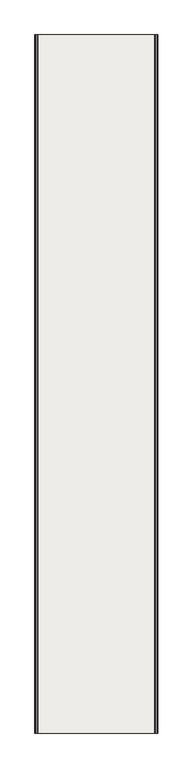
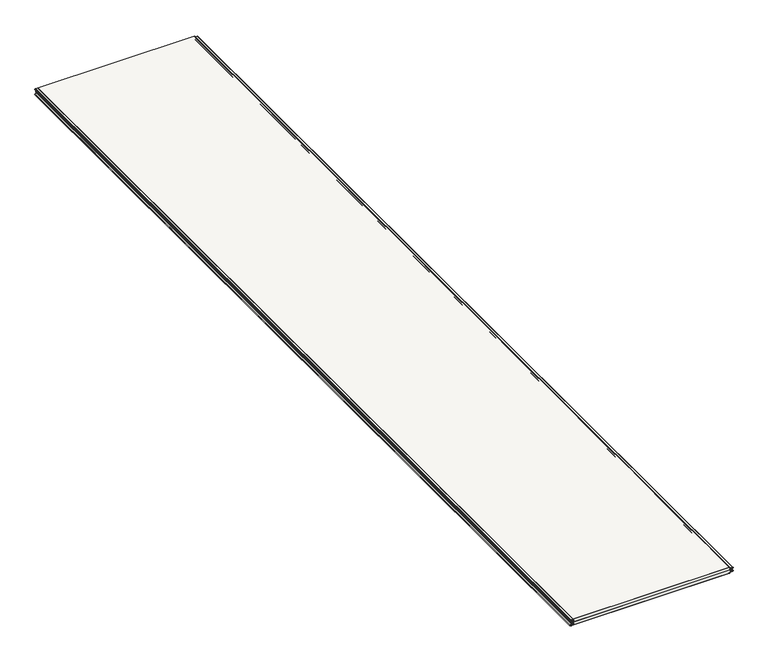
"""IFC4 building model written with IfcOpenShell, lengths in millimetres: covering geometry, Płyta warstwowa ścienna SPW-S CORE PIR (pojedynczy arkusz) : -."""

from ifc_helpers import new_model, si_unit, point, frame, frame_2d, origin, place, context, project, spatial, polyline, circle_curve, trimmed, segment, composite_curve, outline, extrude, source, transform, mapped, element, save
from ifc_brep_helpers import plane_surface, cylinder_surface, revolved_surface, advanced_brep


def covering_261e3902(model_context):
    return source(origin(), model_context, "Body", "SolidModel", [
        extrude(outline(composite_curve([segment(trimmed(circle_curve(frame_2d((-37.0000044, -1037.1173522)), 1.9999956), [point((-39.0, -1037.1173522))], [point((-35.0012272, -1037.1871545))], True, "CARTESIAN"), True, "CONTINUOUS"), segment(polyline([(-35.0012272, -1037.1871545), (-34.4480424, -1021.346807)]), True, "CONTINUOUS"), segment(trimmed(circle_curve(frame_2d((-29.950784, -1021.5038626)), 4.5), [point((-34.4480424, -1021.346807))], [point((-25.4569506, -1021.2683586))], False, "CARTESIAN"), True, "CONTINUOUS"), segment(polyline([(-25.4569506, -1021.2683586), (-24.890434, -1032.0785013)]), True, "CONTINUOUS"), segment(trimmed(circle_curve(frame_2d((-23.3924895, -1032.0)), 1.5), [point((-24.890434, -1032.0785013))], [point((-23.3924895, -1033.5))], True, "CARTESIAN"), True, "CONTINUOUS"), segment(polyline([(-23.3924895, -1033.5), (-20.8924895, -1033.5), (-20.8924895, -1034.5), (-23.3924895, -1034.5)]), True, "CONTINUOUS"), segment(trimmed(circle_curve(frame_2d((-23.3924895, -1032.0)), 2.5), [point((-23.3924895, -1034.5))], [point((-25.8890636, -1032.1308355))], False, "CARTESIAN"), True, "CONTINUOUS"), segment(polyline([(-25.8890636, -1032.1308355), (-26.4555803, -1021.3206928)]), True, "CONTINUOUS"), segment(trimmed(circle_curve(frame_2d((-29.950784, -1021.5038626)), 3.5), [point((-26.4555803, -1021.3206928))], [point((-33.4486516, -1021.3817082))], True, "CARTESIAN"), True, "CONTINUOUS"), segment(polyline([(-33.4486516, -1021.3817082), (-34.0018364, -1037.2220557)]), True, "CONTINUOUS"), segment(trimmed(circle_curve(frame_2d((-37.0000044, -1037.1173522)), 2.9999956), [point((-34.0018364, -1037.2220557))], [point((-40.0, -1037.1173522))], False, "CARTESIAN"), True, "CONTINUOUS"), segment(polyline([(-40.0, -1037.1173522), (-40.0, -1035.0), (-39.0, -1035.0), (-39.0, -1037.1173522)]), True, "CONTINUOUS")], self_intersect=False)), frame((0.0, -5800.0, 0.0), z_axis=(0.0, 1.0, 0.0), x_axis=(0.0, 0.0, 1.0)), (0.0, 0.0, 1.0), 5800.0),
        extrude(outline(composite_curve([segment(polyline([(-1.0, -1037.1173522), (-1.0, -1035.0), (0.0, -1035.0), (0.0, -1037.1173522)]), True, "CONTINUOUS"), segment(trimmed(circle_curve(frame_2d((-2.9999956, -1037.1173522)), 2.9999956), [point((0.0, -1037.1173522))], [point((-5.9981636, -1037.2220557))], False, "CARTESIAN"), True, "CONTINUOUS"), segment(polyline([(-5.9981636, -1037.2220557), (-6.5513484, -1021.3817082)]), True, "CONTINUOUS"), segment(trimmed(circle_curve(frame_2d((-10.049216, -1021.5038626)), 3.5), [point((-6.5513484, -1021.3817082))], [point((-13.5444197, -1021.3206928))], True, "CARTESIAN"), True, "CONTINUOUS"), segment(polyline([(-13.5444197, -1021.3206928), (-14.1109364, -1032.1308355)]), True, "CONTINUOUS"), segment(trimmed(circle_curve(frame_2d((-16.6075105, -1032.0)), 2.5), [point((-14.1109364, -1032.1308355))], [point((-16.6075105, -1034.5))], False, "CARTESIAN"), True, "CONTINUOUS"), segment(polyline([(-16.6075105, -1034.5), (-19.1075105, -1034.5), (-19.1075105, -1033.5), (-16.6075105, -1033.5)]), True, "CONTINUOUS"), segment(trimmed(circle_curve(frame_2d((-16.6075105, -1032.0)), 1.5), [point((-16.6075105, -1033.5))], [point((-15.109566, -1032.0785013))], True, "CARTESIAN"), True, "CONTINUOUS"), segment(polyline([(-15.109566, -1032.0785013), (-14.5430494, -1021.2683586)]), True, "CONTINUOUS"), segment(trimmed(circle_curve(frame_2d((-10.049216, -1021.5038626)), 4.5), [point((-14.5430494, -1021.2683586))], [point((-5.5519576, -1021.346807))], False, "CARTESIAN"), True, "CONTINUOUS"), segment(polyline([(-5.5519576, -1021.346807), (-4.9987728, -1037.1871545)]), True, "CONTINUOUS"), segment(trimmed(circle_curve(frame_2d((-2.9999956, -1037.1173522)), 1.9999956), [point((-4.9987728, -1037.1871545))], [point((-1.0, -1037.1173522))], True, "CARTESIAN"), True, "CONTINUOUS")], self_intersect=False)), frame((0.0, -5800.0, 0.0), z_axis=(0.0, 1.0, 0.0), x_axis=(0.0, 0.0, 1.0)), (0.0, 0.0, 1.0), 5800.0),
        advanced_brep(
        [(-1035.0, 0.0, -1.0), (-1035.0, 0.0, 0.0), (-43.1186621, 0.0, 0.0), (-40.1186621, 0.0, -3.0), (-40.1186621, 0.0, -5.07), (-39.1535616, 0.0, -6.0693908), (-22.7218558, 0.0, -6.6431986), (-22.6835162, 0.0, -13.4752455), (-33.6046719, 0.0, -14.0489713), (-35.5, 0.0, -16.0462304), (-35.5, 0.0, -18.5462304), (-36.5, 0.0, -18.5462304), (-36.5, 0.0, -16.0462304), (-33.6570079, 0.0, -13.0503418), (-22.43132, 0.0, -12.4620284), (-22.5993141, 0.0, -7.6513085), (-39.1884611, 0.0, -7.0687817), (-41.1186621, 0.0, -5.07), (-41.1186621, 0.0, -3.0), (-43.1186621, 0.0, -1.0), (-1035.0, -5800.0, -1.0), (-43.1186621, -5800.0, -1.0), (-41.1186621, -5800.0, -3.0), (-41.1186621, -5800.0, -5.07), (-39.1884611, -5800.0, -7.0687817), (-22.5992017, -5800.0, -7.6480914), (-22.43132, -5800.0, -12.4620284), (-33.6570079, -5800.0, -13.0503418), (-36.5, -5800.0, -16.0462304), (-36.5, -5800.0, -18.5462304), (-35.5, -5800.0, -18.5462304), (-35.5, -5800.0, -16.0462304), (-33.6046719, -5800.0, -14.0489713), (-22.6071775, -5800.0, -13.4726171), (-22.6835162, -5800.0, -6.6498388), (-39.1535616, -5800.0, -6.0693908), (-40.1186621, -5800.0, -5.07), (-40.1186621, -5800.0, -3.0), (-43.1186621, -5800.0, 0.0), (-1035.0, -5800.0, 0.0)],
        [
            (0, 1),
            (1, 2),
            (2, 3, circle_curve(frame((-43.1186621, 0.0, -3.0), z_axis=(0.0, 1.0, 0.0), x_axis=(1.0, 0.0, 0.0)), 3.0)),
            (3, 4),
            (4, 5, circle_curve(frame((-39.1186621, 0.0, -5.07), z_axis=(0.0, -1.0, 0.0), x_axis=(1.0, 0.0, 0.0)), 1.0)),
            (5, 6),
            (6, 7, circle_curve(frame((-22.6835162, 0.0, -10.0625421), z_axis=(0.0, 1.0, 0.0), x_axis=(1.0, 0.0, 0.0)), 3.4127033)),
            (7, 8),
            (8, 9, circle_curve(frame((-33.5, 0.0, -16.0462304), z_axis=(0.0, -1.0, 0.0), x_axis=(1.0, 0.0, 0.0)), 2.0)),
            (9, 10),
            (10, 11),
            (11, 12),
            (12, 13, circle_curve(frame((-33.5, 0.0, -16.0462304), z_axis=(0.0, 1.0, 0.0), x_axis=(1.0, 0.0, 0.0)), 3.0)),
            (13, 14),
            (14, 15, circle_curve(frame((-22.6835162, 0.0, -10.0625421), z_axis=(0.0, -1.0, 0.0), x_axis=(1.0, 0.0, 0.0)), 2.4127033)),
            (15, 16),
            (16, 17, circle_curve(frame((-39.1186621, 0.0, -5.07), z_axis=(0.0, 1.0, 0.0), x_axis=(1.0, 0.0, 0.0)), 2.0)),
            (17, 18),
            (18, 19, circle_curve(frame((-43.1186621, 0.0, -3.0), z_axis=(0.0, -1.0, 0.0), x_axis=(1.0, 0.0, 0.0)), 2.0)),
            (19, 0),
            (20, 21),
            (21, 22, circle_curve(frame((-43.1186621, -5800.0, -3.0), z_axis=(0.0, 1.0, 0.0), x_axis=(1.0, 0.0, 0.0)), 2.0)),
            (22, 23),
            (23, 24, circle_curve(frame((-39.1186621, -5800.0, -5.07), z_axis=(0.0, -1.0, 0.0), x_axis=(1.0, 0.0, 0.0)), 2.0)),
            (24, 25),
            (25, 26, circle_curve(frame((-22.6835162, -5800.0, -10.0625421), z_axis=(0.0, 1.0, 0.0), x_axis=(1.0, 0.0, 0.0)), 2.4127033)),
            (26, 27),
            (27, 28, circle_curve(frame((-33.5, -5800.0, -16.0462304), z_axis=(0.0, -1.0, 0.0), x_axis=(1.0, 0.0, 0.0)), 3.0)),
            (28, 29),
            (29, 30),
            (30, 31),
            (31, 32, circle_curve(frame((-33.5, -5800.0, -16.0462304), z_axis=(0.0, 1.0, 0.0), x_axis=(1.0, 0.0, 0.0)), 2.0)),
            (32, 33),
            (33, 34, circle_curve(frame((-22.6835162, -5800.0, -10.0625421), z_axis=(0.0, -1.0, 0.0), x_axis=(1.0, 0.0, 0.0)), 3.4127033)),
            (34, 35),
            (35, 36, circle_curve(frame((-39.1186621, -5800.0, -5.07), z_axis=(0.0, 1.0, 0.0), x_axis=(1.0, 0.0, 0.0)), 1.0)),
            (36, 37),
            (37, 38, circle_curve(frame((-43.1186621, -5800.0, -3.0), z_axis=(0.0, -1.0, 0.0), x_axis=(1.0, 0.0, 0.0)), 3.0)),
            (38, 39),
            (39, 20),
            (19, 21),
            (20, 0),
            (1, 39),
            (38, 2),
            (16, 24),
            (23, 17),
            (22, 18),
            (15, 25),
            (13, 27),
            (26, 14),
            (10, 30),
            (29, 11),
            (12, 28),
            (4, 36),
            (35, 5),
            (9, 31),
            (8, 32),
            (7, 33),
            (6, 34),
            (37, 3),
        ],
        [
            plane_surface(frame((-35.0, 0.0, -1.0), z_axis=(0.0, 1.0, 0.0), x_axis=(1.0, 0.0, 0.0))),
            plane_surface(frame((-35.0, -5800.0, -1.0), z_axis=(0.0, -1.0, 0.0), x_axis=(1.0, 0.0, 0.0))),
            plane_surface(frame((-43.1186621, 0.0, -1.0), z_axis=(0.0, 0.0, -1.0), x_axis=(0.0, -1.0, 0.0))),
            plane_surface(frame((-1035.0, 0.0, 0.0), z_axis=(0.0, 0.0, 1.0), x_axis=(0.0, -1.0, 0.0))),
            cylinder_surface(frame((-39.1186621, 0.0, -5.07), z_axis=(0.0, 1.0, 0.0), x_axis=(1.0, 0.0, 0.0)), 2.0),
            plane_surface(frame((-41.1186621, 0.0, -5.07), z_axis=(-1.0, 0.0, 0.0), x_axis=(0.0, -1.0, 0.0))),
            revolved_surface(polyline([(-41.1186621, -5800.0, -3.0), (-41.1186621, 0.0, -3.0)]), (-43.1186621, 0.0, -3.0), (0.0, -1.0, 0.0)),
            plane_surface(frame((-22.5992017, 0.0, -7.6480914), z_axis=(-0.034899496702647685, 0.0, -0.9993908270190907), x_axis=(0.0, -1.0, 0.0))),
            plane_surface(frame((-33.6570079, 0.0, -13.0503418), z_axis=(-0.05233595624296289, 0.0, 0.998629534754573), x_axis=(0.0, -1.0, 0.0))),
            plane_surface(frame((-35.5, 0.0, -18.5462304), z_axis=(0.0, 0.0, -1.0), x_axis=(0.0, -1.0, 0.0))),
            cylinder_surface(frame((-33.5, 0.0, -16.0462304), z_axis=(0.0, 1.0, 0.0), x_axis=(1.0, 0.0, 0.0)), 3.0),
            plane_surface(frame((-36.5, 0.0, -18.5462304), z_axis=(-1.0, 0.0, 0.0), x_axis=(0.0, -1.0, 0.0))),
            revolved_surface(polyline([(-38.1186621, -5800.0, -5.07), (-38.1186621, 0.0, -5.07)]), (-39.1186621, 0.0, -5.07), (0.0, -1.0, 0.0)),
            plane_surface(frame((-35.5, 0.0, -16.0462304), z_axis=(1.0, 0.0, 0.0), x_axis=(0.0, -1.0, 0.0))),
            revolved_surface(polyline([(-31.5, -5800.0, -16.0462304), (-31.5, 0.0, -16.0462304)]), (-33.5, 0.0, -16.0462304), (0.0, -1.0, 0.0)),
            plane_surface(frame((-22.6071775, 0.0, -13.4726171), z_axis=(0.052335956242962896, 0.0, -0.998629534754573), x_axis=(0.0, -1.0, 0.0))),
            revolved_surface(polyline([(-20.2708129, -5800.0, -10.0625421), (-20.2708129, 0.0, -10.0625421)]), (-22.6835162, 0.0, -10.0625421), (0.0, -1.0, 0.0)),
            cylinder_surface(frame((-22.6835162, 0.0, -10.0625421), z_axis=(0.0, 1.0, 0.0), x_axis=(1.0, 0.0, 0.0)), 3.4127033),
            plane_surface(frame((-1035.0, 0.0, -1.0), z_axis=(-1.0, 0.0, 0.0), x_axis=(0.0, -1.0, 0.0))),
            cylinder_surface(frame((-43.1186621, 0.0, -3.0), z_axis=(0.0, 1.0, 0.0), x_axis=(1.0, 0.0, 0.0)), 3.0),
            plane_surface(frame((-40.1186621, 0.0, -3.0), z_axis=(1.0, 0.0, 0.0), x_axis=(0.0, -1.0, 0.0))),
            plane_surface(frame((-39.1535616, 0.0, -6.0693908), z_axis=(0.03489949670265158, 0.0, 0.9993908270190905), x_axis=(0.0, -1.0, 0.0))),
        ],
        [
            (0, [[1, 2, 3, 4, 5, 6, 7, 8, 9, 10, 11, 12, 13, 14, 15, 16, 17, 18, 19, 20]]),
            (1, [[21, 22, 23, 24, 25, 26, 27, 28, 29, 30, 31, 32, 33, 34, 35, 36, 37, 38, 39, 40]]),
            (2, [[-20, 41, -21, 42]]),
            (3, [[-2, 43, -39, 44]]),
            (4, [[-17, 45, -24, 46]]),
            (5, [[-18, -46, -23, 47]]),
            (6, [[-19, -47, -22, -41]]),
            (7, [[-16, 48, -25, -45]]),
            (8, [[-14, 49, -27, 50]]),
            (9, [[-11, 51, -30, 52]]),
            (10, [[-13, 53, -28, -49]]),
            (11, [[-12, -52, -29, -53]]),
            (12, [[-5, 54, -36, 55]]),
            (13, [[-10, 56, -31, -51]]),
            (14, [[-9, 57, -32, -56]]),
            (15, [[-8, 58, -33, -57]]),
            (16, [[-15, -50, -26, -48]]),
            (17, [[-7, 59, -34, -58]]),
            (18, [[-1, -42, -40, -43]]),
            (19, [[-3, -44, -38, 60]]),
            (20, [[-4, -60, -37, -54]]),
            (21, [[-6, -55, -35, -59]]),
        ],
    ),
        advanced_brep(
        [(-1035.0, 0.0, -39.0), (-43.1186621, 0.0, -39.0), (-41.1186621, 0.0, -37.0), (-41.1186621, 0.0, -34.93), (-39.1884611, 0.0, -32.9312183), (-22.5992017, 0.0, -32.3519086), (-22.43132, 0.0, -27.5379716), (-33.6570079, 0.0, -26.9496582), (-36.5, 0.0, -23.9537696), (-36.5, 0.0, -21.4537696), (-35.5, 0.0, -21.4537696), (-35.5, 0.0, -23.9537696), (-33.6046719, 0.0, -25.9510287), (-22.6071775, 0.0, -26.5273829), (-22.6835162, 0.0, -33.3501612), (-39.1535616, 0.0, -33.9306092), (-40.1186621, 0.0, -34.93), (-40.1186621, 0.0, -37.0), (-43.1186621, 0.0, -40.0), (-1035.0, 0.0, -40.0), (-1035.0, -5800.0, -39.0), (-1035.0, -5800.0, -40.0), (-43.1186621, -5800.0, -40.0), (-40.1186621, -5800.0, -37.0), (-40.1186621, -5800.0, -34.93), (-39.1535616, -5800.0, -33.9306092), (-22.7218558, -5800.0, -33.3568014), (-22.6835162, -5800.0, -26.5247545), (-33.6046719, -5800.0, -25.9510287), (-35.5, -5800.0, -23.9537696), (-35.5, -5800.0, -21.4537696), (-36.5, -5800.0, -21.4537696), (-36.5, -5800.0, -23.9537696), (-33.6570079, -5800.0, -26.9496582), (-22.43132, -5800.0, -27.5379716), (-22.5993141, -5800.0, -32.3486915), (-39.1884611, -5800.0, -32.9312183), (-41.1186621, -5800.0, -34.93), (-41.1186621, -5800.0, -37.0), (-43.1186621, -5800.0, -39.0)],
        [
            (0, 1),
            (1, 2, circle_curve(frame((-43.1186621, 0.0, -37.0), z_axis=(0.0, -1.0, 0.0), x_axis=(1.0, 0.0, 0.0)), 2.0)),
            (2, 3),
            (3, 4, circle_curve(frame((-39.1186621, 0.0, -34.93), z_axis=(0.0, 1.0, 0.0), x_axis=(1.0, 0.0, 0.0)), 2.0)),
            (4, 5),
            (5, 6, circle_curve(frame((-22.6835162, 0.0, -29.9374579), z_axis=(0.0, -1.0, 0.0), x_axis=(1.0, 0.0, 0.0)), 2.4127033)),
            (6, 7),
            (7, 8, circle_curve(frame((-33.5, 0.0, -23.9537696), z_axis=(0.0, 1.0, 0.0), x_axis=(1.0, 0.0, 0.0)), 3.0)),
            (8, 9),
            (9, 10),
            (10, 11),
            (11, 12, circle_curve(frame((-33.5, 0.0, -23.9537696), z_axis=(0.0, -1.0, 0.0), x_axis=(1.0, 0.0, 0.0)), 2.0)),
            (12, 13),
            (13, 14, circle_curve(frame((-22.6835162, 0.0, -29.9374579), z_axis=(0.0, 1.0, 0.0), x_axis=(1.0, 0.0, 0.0)), 3.4127033)),
            (14, 15),
            (15, 16, circle_curve(frame((-39.1186621, 0.0, -34.93), z_axis=(0.0, -1.0, 0.0), x_axis=(1.0, 0.0, 0.0)), 1.0)),
            (16, 17),
            (17, 18, circle_curve(frame((-43.1186621, 0.0, -37.0), z_axis=(0.0, 1.0, 0.0), x_axis=(1.0, 0.0, 0.0)), 3.0)),
            (18, 19),
            (19, 0),
            (20, 21),
            (21, 22),
            (22, 23, circle_curve(frame((-43.1186621, -5800.0, -37.0), z_axis=(0.0, -1.0, 0.0), x_axis=(1.0, 0.0, 0.0)), 3.0)),
            (23, 24),
            (24, 25, circle_curve(frame((-39.1186621, -5800.0, -34.93), z_axis=(0.0, 1.0, 0.0), x_axis=(1.0, 0.0, 0.0)), 1.0)),
            (25, 26),
            (26, 27, circle_curve(frame((-22.6835162, -5800.0, -29.9374579), z_axis=(0.0, -1.0, 0.0), x_axis=(1.0, 0.0, 0.0)), 3.4127033)),
            (27, 28),
            (28, 29, circle_curve(frame((-33.5, -5800.0, -23.9537696), z_axis=(0.0, 1.0, 0.0), x_axis=(1.0, 0.0, 0.0)), 2.0)),
            (29, 30),
            (30, 31),
            (31, 32),
            (32, 33, circle_curve(frame((-33.5, -5800.0, -23.9537696), z_axis=(0.0, -1.0, 0.0), x_axis=(1.0, 0.0, 0.0)), 3.0)),
            (33, 34),
            (34, 35, circle_curve(frame((-22.6835162, -5800.0, -29.9374579), z_axis=(0.0, 1.0, 0.0), x_axis=(1.0, 0.0, 0.0)), 2.4127033)),
            (35, 36),
            (36, 37, circle_curve(frame((-39.1186621, -5800.0, -34.93), z_axis=(0.0, -1.0, 0.0), x_axis=(1.0, 0.0, 0.0)), 2.0)),
            (37, 38),
            (38, 39, circle_curve(frame((-43.1186621, -5800.0, -37.0), z_axis=(0.0, 1.0, 0.0), x_axis=(1.0, 0.0, 0.0)), 2.0)),
            (39, 20),
            (0, 20),
            (39, 1),
            (18, 22),
            (21, 19),
            (3, 37),
            (36, 4),
            (2, 38),
            (35, 5),
            (6, 34),
            (33, 7),
            (9, 31),
            (30, 10),
            (32, 8),
            (15, 25),
            (24, 16),
            (29, 11),
            (28, 12),
            (27, 13),
            (26, 14),
            (23, 17),
        ],
        [
            plane_surface(frame((-30.0, 0.0, -40.0), z_axis=(0.0, 1.0, 0.0), x_axis=(-1.0, 0.0, 0.0))),
            plane_surface(frame((-30.0, -5800.0, -40.0), z_axis=(0.0, -1.0, 0.0), x_axis=(-1.0, 0.0, 0.0))),
            plane_surface(frame((-1035.0, 0.0, -39.0), z_axis=(0.0, 0.0, 1.0), x_axis=(0.0, -1.0, 0.0))),
            plane_surface(frame((-43.1186621, 0.0, -40.0), z_axis=(0.0, 0.0, -1.0), x_axis=(0.0, -1.0, 0.0))),
            cylinder_surface(frame((-39.1186621, 0.0, -34.93), z_axis=(0.0, 1.0, 0.0), x_axis=(1.0, 0.0, 0.0)), 2.0),
            plane_surface(frame((-41.1186621, 0.0, -37.0), z_axis=(-1.0, 0.0, 0.0), x_axis=(0.0, -1.0, 0.0))),
            revolved_surface(polyline([(-41.1186621, -5800.0, -37.0), (-41.1186621, 0.0, -37.0)]), (-43.1186621, 0.0, -37.0), (0.0, -1.0, 0.0)),
            plane_surface(frame((-39.1884611, 0.0, -32.9312183), z_axis=(-0.034899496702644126, 0.0, 0.9993908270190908), x_axis=(0.0, -1.0, 0.0))),
            plane_surface(frame((-22.43132, 0.0, -27.5379716), z_axis=(-0.05233595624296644, 0.0, -0.9986295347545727), x_axis=(0.0, -1.0, 0.0))),
            plane_surface(frame((-36.5, 0.0, -21.4537696), z_axis=(0.0, 0.0, 1.0), x_axis=(0.0, -1.0, 0.0))),
            cylinder_surface(frame((-33.5, 0.0, -23.9537696), z_axis=(0.0, 1.0, 0.0), x_axis=(1.0, 0.0, 0.0)), 3.0),
            plane_surface(frame((-36.5, 0.0, -23.9537696), z_axis=(-1.0, 0.0, 0.0), x_axis=(0.0, -1.0, 0.0))),
            revolved_surface(polyline([(-38.1186621, -5800.0, -34.93), (-38.1186621, 0.0, -34.93)]), (-39.1186621, 0.0, -34.93), (0.0, -1.0, 0.0)),
            plane_surface(frame((-35.5, 0.0, -21.4537696), z_axis=(1.0, 0.0, 0.0), x_axis=(0.0, -1.0, 0.0))),
            revolved_surface(polyline([(-31.5, -5800.0, -23.9537696), (-31.5, 0.0, -23.9537696)]), (-33.5, 0.0, -23.9537696), (0.0, -1.0, 0.0)),
            plane_surface(frame((-33.6046719, 0.0, -25.9510287), z_axis=(0.05233595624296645, 0.0, 0.9986295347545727), x_axis=(0.0, -1.0, 0.0))),
            revolved_surface(polyline([(-20.2708129, -5800.0, -29.9374579), (-20.2708129, 0.0, -29.9374579)]), (-22.6835162, 0.0, -29.9374579), (0.0, -1.0, 0.0)),
            cylinder_surface(frame((-22.6835162, 0.0, -29.9374579), z_axis=(0.0, 1.0, 0.0), x_axis=(1.0, 0.0, 0.0)), 3.4127033),
            plane_surface(frame((-1035.0, 0.0, -40.0), z_axis=(-1.0, 0.0, 0.0), x_axis=(0.0, -1.0, 0.0))),
            plane_surface(frame((-22.7218558, 0.0, -33.3568014), z_axis=(0.03489949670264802, 0.0, -0.9993908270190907), x_axis=(0.0, -1.0, 0.0))),
            plane_surface(frame((-40.1186621, 0.0, -34.93), z_axis=(1.0, 0.0, 0.0), x_axis=(0.0, -1.0, 0.0))),
            cylinder_surface(frame((-43.1186621, 0.0, -37.0), z_axis=(0.0, 1.0, 0.0), x_axis=(1.0, 0.0, 0.0)), 3.0),
        ],
        [
            (0, [[1, 2, 3, 4, 5, 6, 7, 8, 9, 10, 11, 12, 13, 14, 15, 16, 17, 18, 19, 20]]),
            (1, [[21, 22, 23, 24, 25, 26, 27, 28, 29, 30, 31, 32, 33, 34, 35, 36, 37, 38, 39, 40]]),
            (2, [[-1, 41, -40, 42]]),
            (3, [[-19, 43, -22, 44]]),
            (4, [[-4, 45, -37, 46]]),
            (5, [[-3, 47, -38, -45]]),
            (6, [[-2, -42, -39, -47]]),
            (7, [[-5, -46, -36, 48]]),
            (8, [[-7, 49, -34, 50]]),
            (9, [[-10, 51, -31, 52]]),
            (10, [[-8, -50, -33, 53]]),
            (11, [[-9, -53, -32, -51]]),
            (12, [[-16, 54, -25, 55]]),
            (13, [[-11, -52, -30, 56]]),
            (14, [[-12, -56, -29, 57]]),
            (15, [[-13, -57, -28, 58]]),
            (16, [[-6, -48, -35, -49]]),
            (17, [[-14, -58, -27, 59]]),
            (18, [[-20, -44, -21, -41]]),
            (19, [[-15, -59, -26, -54]]),
            (20, [[-17, -55, -24, 60]]),
            (21, [[-18, -60, -23, -43]]),
        ],
    ),
        advanced_brep(
        [(-1037.1871545, -5800.0, -35.0012272), (-1037.1871545, 0.0, -35.0012272), (-1037.1173522, 0.0, -39.0), (-1037.1173522, -5800.0, -39.0), (-1021.346807, -5800.0, -34.4480424), (-1021.346807, 0.0, -34.4480424), (-1021.2683586, -5800.0, -25.4569506), (-1021.2683586, 0.0, -25.4569506), (-1032.0785013, -5800.0, -24.890434), (-1032.0785013, 0.0, -24.890434), (-1033.5, -5800.0, -23.3924895), (-1033.5, 0.0, -23.3924895), (-1033.5, -5800.0, -20.0), (-1033.5, 0.0, -20.0), (-1035.0, -5800.0, -39.0), (-44.6192414, -5800.0, -39.0), (-43.1186621, -5800.0, -39.0), (-41.1186621, -5800.0, -37.0), (-41.1186621, -5800.0, -34.93), (-39.1884611, -5800.0, -32.9312183), (-22.5992017, -5800.0, -32.3519086), (-22.1786572, -5800.0, -27.5781667), (-33.6570078, -5800.0, -26.9496582), (-36.5, -5800.0, -23.9537696), (-36.5, -5800.0, -20.0), (-1035.0, 0.0, -39.0), (-36.5, 0.0, -20.0), (-36.5, 0.0, -23.9537696), (-33.6570078, 0.0, -26.9496582), (-22.1786572, 0.0, -27.5781667), (-22.5993141, 0.0, -32.3486915), (-39.1884611, 0.0, -32.9312183), (-41.1186621, 0.0, -34.93), (-41.1186621, 0.0, -37.0), (-43.1186621, 0.0, -39.0), (-44.6192414, 0.0, -39.0)],
        [
            (0, 1),
            (1, 2, circle_curve(frame((-1037.1173522, 0.0, -37.0000044), z_axis=(0.0, -1.0, 0.0), x_axis=(-1.0, 0.0, 0.0)), 1.9999956)),
            (2, 3),
            (3, 0, circle_curve(frame((-1037.1173522, -5800.0, -37.0000044), z_axis=(0.0, 1.0, 0.0), x_axis=(-1.0, 0.0, 0.0)), 1.9999956)),
            (0, 4),
            (4, 5),
            (5, 1),
            (4, 6, circle_curve(frame((-1021.5038626, -5800.0, -29.950784), z_axis=(0.0, -1.0, 0.0), x_axis=(-1.0, 0.0, 0.0)), 4.5)),
            (6, 7),
            (7, 5, circle_curve(frame((-1021.5038626, 0.0, -29.950784), z_axis=(0.0, 1.0, 0.0), x_axis=(-1.0, 0.0, 0.0)), 4.5)),
            (6, 8),
            (8, 9),
            (9, 7),
            (8, 10, circle_curve(frame((-1032.0, -5800.0, -23.3924895), z_axis=(0.0, 1.0, 0.0), x_axis=(-1.0, 0.0, 0.0)), 1.5)),
            (10, 11),
            (11, 9, circle_curve(frame((-1032.0, 0.0, -23.3924895), z_axis=(0.0, -1.0, 0.0), x_axis=(-1.0, 0.0, 0.0)), 1.5)),
            (10, 12),
            (12, 13),
            (13, 11),
            (3, 14),
            (14, 15),
            (15, 16),
            (16, 17, circle_curve(frame((-43.1186621, -5800.0, -37.0), z_axis=(0.0, -1.0, 0.0), x_axis=(-1.0, 0.0, 0.0)), 2.0)),
            (17, 18),
            (18, 19, circle_curve(frame((-39.1186621, -5800.0, -34.93), z_axis=(0.0, 1.0, 0.0), x_axis=(-1.0, 0.0, 0.0)), 2.0)),
            (19, 20),
            (20, 21, circle_curve(frame((-22.6835162, -5800.0, -29.9374579), z_axis=(0.0, -1.0, 0.0), x_axis=(-1.0, 0.0, 0.0)), 2.4127033)),
            (21, 22),
            (22, 23, circle_curve(frame((-33.5, -5800.0, -23.9537696), z_axis=(0.0, 1.0, 0.0), x_axis=(-1.0, 0.0, 0.0)), 3.0)),
            (23, 24),
            (24, 12),
            (25, 2),
            (13, 26),
            (26, 27),
            (27, 28, circle_curve(frame((-33.5, 0.0, -23.9537696), z_axis=(0.0, -1.0, 0.0), x_axis=(-1.0, 0.0, 0.0)), 3.0)),
            (28, 29),
            (29, 30, circle_curve(frame((-22.6835162, 0.0, -29.9374579), z_axis=(0.0, 1.0, 0.0), x_axis=(-1.0, 0.0, 0.0)), 2.4127033)),
            (30, 31),
            (31, 32, circle_curve(frame((-39.1186621, 0.0, -34.93), z_axis=(0.0, -1.0, 0.0), x_axis=(-1.0, 0.0, 0.0)), 2.0)),
            (32, 33),
            (33, 34, circle_curve(frame((-43.1186621, 0.0, -37.0), z_axis=(0.0, 1.0, 0.0), x_axis=(-1.0, 0.0, 0.0)), 2.0)),
            (34, 35),
            (35, 25),
            (24, 26),
            (34, 16),
            (23, 27),
            (22, 28),
            (21, 29),
            (20, 30),
            (19, 31),
            (18, 32),
            (17, 33),
        ],
        [
            cylinder_surface(frame((-1037.1173522, -5800.0, -37.0000044), z_axis=(0.0, 1.0, 0.0), x_axis=(-1.0, 0.0, 0.0)), 1.9999956),
            plane_surface(frame((-1037.1871545, -5800.0, -35.0012272), z_axis=(-0.034901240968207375, 0.0, 0.9993907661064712), x_axis=(0.0, 1.0, 0.0))),
            revolved_surface(polyline([(-1026.0038626, -5800.0, -29.950784), (-1026.0038626, 0.0, -29.950784)]), (-1021.5038626, -5800.0, -29.950784), (0.0, -1.0, 0.0)),
            plane_surface(frame((-1021.2683586, -5800.0, -25.4569506), z_axis=(-0.05233421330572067, 0.0, -0.9986296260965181), x_axis=(0.0, 1.0, 0.0))),
            cylinder_surface(frame((-1032.0, -5800.0, -23.3924895), z_axis=(0.0, 1.0, 0.0), x_axis=(-1.0, 0.0, 0.0)), 1.5),
            plane_surface(frame((-1033.5, -5800.0, -23.3924895), z_axis=(-1.0, 0.0, 0.0), x_axis=(0.0, 1.0, 0.0))),
            plane_surface(frame((-1065.0, -5800.0, -20.0), z_axis=(0.0, -1.0, 0.0), x_axis=(-1.0, 0.0, 0.0))),
            plane_surface(frame((-1065.0, 0.0, -20.0), z_axis=(0.0, 1.0, 0.0), x_axis=(1.0, 0.0, 0.0))),
            plane_surface(frame((15.0, -5800.0, -20.0), z_axis=(0.0, 0.0, 1.0), x_axis=(0.0, 1.0, 0.0))),
            plane_surface(frame((-1065.0, -5800.0, -39.0), z_axis=(0.0, 0.0, -1.0), x_axis=(0.0, 1.0, 0.0))),
            plane_surface(frame((-36.5, -5800.0, -16.0462304), z_axis=(1.0, 0.0, 0.0), x_axis=(0.0, 1.0, 0.0))),
            revolved_surface(polyline([(-36.5, -5800.0, -23.9537696), (-36.5, 0.0, -23.9537696)]), (-33.5, -5800.0, -23.9537696), (0.0, -1.0, 0.0)),
            plane_surface(frame((-33.6570078, -5800.0, -26.9496582), z_axis=(0.05467409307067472, 0.0, 0.9985042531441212), x_axis=(0.0, 1.0, 0.0))),
            cylinder_surface(frame((-22.6835162, -5800.0, -29.9374579), z_axis=(0.0, 1.0, 0.0), x_axis=(-1.0, 0.0, 0.0)), 2.4127033),
            plane_surface(frame((-22.5992017, -5800.0, -32.3519086), z_axis=(0.03489949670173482, 0.0, -0.9993908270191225), x_axis=(0.0, 1.0, 0.0))),
            revolved_surface(polyline([(-41.1186621, -5800.0, -34.93), (-41.1186621, 0.0, -34.93)]), (-39.1186621, -5800.0, -34.93), (0.0, -1.0, 0.0)),
            plane_surface(frame((-41.1186621, -5800.0, -34.93), z_axis=(1.0, 0.0, 0.0), x_axis=(0.0, 1.0, 0.0))),
            cylinder_surface(frame((-43.1186621, -5800.0, -37.0), z_axis=(0.0, 1.0, 0.0), x_axis=(-1.0, 0.0, 0.0)), 2.0),
        ],
        [
            (0, [[1, 2, 3, 4]]),
            (1, [[-1, 5, 6, 7]]),
            (2, [[-6, 8, 9, 10]]),
            (3, [[-9, 11, 12, 13]]),
            (4, [[-12, 14, 15, 16]]),
            (5, [[-15, 17, 18, 19]]),
            (6, [[20, 21, 22, 23, 24, 25, 26, 27, 28, 29, 30, 31, -17, -14, -11, -8, -5, -4]]),
            (7, [[32, -2, -7, -10, -13, -16, -19, 33, 34, 35, 36, 37, 38, 39, 40, 41, 42, 43]]),
            (8, [[-18, -31, 44, -33]]),
            (9, [[-20, -3, -32, -43, -42, 45, -22, -21]]),
            (10, [[46, -34, -44, -30]]),
            (11, [[-46, -29, 47, -35]]),
            (12, [[-47, -28, 48, -36]]),
            (13, [[-48, -27, 49, -37]]),
            (14, [[-49, -26, 50, -38]]),
            (15, [[-50, -25, 51, -39]]),
            (16, [[-51, -24, 52, -40]]),
            (17, [[-52, -23, -45, -41]]),
        ],
    ),
        advanced_brep(
        [(-1035.0, -5800.0, -1.0), (-1037.1173522, -5800.0, -1.0), (-1037.1871545, -5800.0, -4.9987728), (-1021.346807, -5800.0, -5.5519576), (-1021.2683586, -5800.0, -14.5430494), (-1032.0785013, -5800.0, -15.109566), (-1033.5, -5800.0, -16.6075105), (-1033.5, -5800.0, -20.0), (-36.5, -5800.0, -20.0), (-36.5, -5800.0, -16.0462304), (-33.6570079, -5800.0, -13.0503418), (-22.43132, -5800.0, -12.4620284), (-22.5993141, -5800.0, -7.6513085), (-39.1884611, -5800.0, -7.0687817), (-41.1186621, -5800.0, -5.07), (-41.1186621, -5800.0, -3.0), (-43.1186621, -5800.0, -1.0), (-1037.1173522, 0.0, -1.0), (-1035.0, 0.0, -1.0), (-43.1186621, 0.0, -1.0), (-41.1186621, 0.0, -3.0), (-41.1186621, 0.0, -5.07), (-39.1884611, 0.0, -7.0687817), (-22.5992017, 0.0, -7.6480914), (-22.43132, 0.0, -12.4620284), (-33.6570079, 0.0, -13.0503418), (-36.5, 0.0, -16.0462304), (-36.5, 0.0, -20.0), (-1033.5, 0.0, -20.0), (-1033.5, 0.0, -16.6075105), (-1032.0785013, 0.0, -15.109566), (-1021.2683586, 0.0, -14.5430494), (-1021.346807, 0.0, -5.5519576), (-1037.1871545, 0.0, -4.9987728)],
        [
            (0, 1),
            (1, 2, circle_curve(frame((-1037.1173522, -5800.0, -2.9999956), z_axis=(0.0, -1.0, 0.0), x_axis=(-1.0, 0.0, 0.0)), 1.9999956)),
            (2, 3),
            (3, 4, circle_curve(frame((-1021.5038626, -5800.0, -10.049216), z_axis=(0.0, 1.0, 0.0), x_axis=(-1.0, 0.0, 0.0)), 4.5)),
            (4, 5),
            (5, 6, circle_curve(frame((-1032.0, -5800.0, -16.6075105), z_axis=(0.0, -1.0, 0.0), x_axis=(-1.0, 0.0, 0.0)), 1.5)),
            (6, 7),
            (7, 8),
            (8, 9),
            (9, 10, circle_curve(frame((-33.5, -5800.0, -16.0462304), z_axis=(0.0, 1.0, 0.0), x_axis=(-1.0, 0.0, 0.0)), 3.0)),
            (10, 11),
            (11, 12, circle_curve(frame((-22.6835162, -5800.0, -10.0625421), z_axis=(0.0, -1.0, 0.0), x_axis=(-1.0, 0.0, 0.0)), 2.4127033)),
            (12, 13),
            (13, 14, circle_curve(frame((-39.1186621, -5800.0, -5.07), z_axis=(0.0, 1.0, 0.0), x_axis=(-1.0, 0.0, 0.0)), 2.0)),
            (14, 15),
            (15, 16, circle_curve(frame((-43.1186621, -5800.0, -3.0), z_axis=(0.0, -1.0, 0.0), x_axis=(-1.0, 0.0, 0.0)), 2.0)),
            (16, 0),
            (17, 18),
            (18, 19),
            (19, 20, circle_curve(frame((-43.1186621, 0.0, -3.0), z_axis=(0.0, 1.0, 0.0), x_axis=(-1.0, 0.0, 0.0)), 2.0)),
            (20, 21),
            (21, 22, circle_curve(frame((-39.1186621, 0.0, -5.07), z_axis=(0.0, -1.0, 0.0), x_axis=(-1.0, 0.0, 0.0)), 2.0)),
            (22, 23),
            (23, 24, circle_curve(frame((-22.6835162, 0.0, -10.0625421), z_axis=(0.0, 1.0, 0.0), x_axis=(-1.0, 0.0, 0.0)), 2.4127033)),
            (24, 25),
            (25, 26, circle_curve(frame((-33.5, 0.0, -16.0462304), z_axis=(0.0, -1.0, 0.0), x_axis=(-1.0, 0.0, 0.0)), 3.0)),
            (26, 27),
            (27, 28),
            (28, 29),
            (29, 30, circle_curve(frame((-1032.0, 0.0, -16.6075105), z_axis=(0.0, 1.0, 0.0), x_axis=(-1.0, 0.0, 0.0)), 1.5)),
            (30, 31),
            (31, 32, circle_curve(frame((-1021.5038626, 0.0, -10.049216), z_axis=(0.0, -1.0, 0.0), x_axis=(-1.0, 0.0, 0.0)), 4.5)),
            (32, 33),
            (33, 17, circle_curve(frame((-1037.1173522, 0.0, -2.9999956), z_axis=(0.0, 1.0, 0.0), x_axis=(-1.0, 0.0, 0.0)), 1.9999956)),
            (16, 19),
            (17, 1),
            (7, 28),
            (27, 8),
            (6, 29),
            (5, 30),
            (4, 31),
            (3, 32),
            (2, 33),
            (15, 20),
            (14, 21),
            (13, 22),
            (12, 23),
            (11, 24),
            (10, 25),
            (9, 26),
        ],
        [
            plane_surface(frame((-1065.0, -5800.0, -1.0), z_axis=(0.0, -1.0, 0.0), x_axis=(-1.0, 0.0, 0.0))),
            plane_surface(frame((-1065.0, 0.0, -1.0), z_axis=(0.0, 1.0, 0.0), x_axis=(1.0, 0.0, 0.0))),
            plane_surface(frame((15.0, -5800.0, -1.0), z_axis=(0.0, 0.0, 1.0), x_axis=(0.0, 1.0, 0.0))),
            plane_surface(frame((-1065.0, -5800.0, -20.0), z_axis=(0.0, 0.0, -1.0), x_axis=(0.0, 1.0, 0.0))),
            plane_surface(frame((-1033.5, -5800.0, -23.3924895), z_axis=(-1.0, 0.0, 0.0), x_axis=(0.0, 1.0, 0.0))),
            cylinder_surface(frame((-1032.0, -5800.0, -16.6075105), z_axis=(0.0, 1.0, 0.0), x_axis=(-1.0, 0.0, 0.0)), 1.5),
            plane_surface(frame((-1032.0785013, -5800.0, -15.109566), z_axis=(-0.052334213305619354, 0.0, 0.9986296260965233), x_axis=(0.0, 1.0, 0.0))),
            revolved_surface(polyline([(-1026.0038626, -5800.0, -10.049216), (-1026.0038626, 0.0, -10.049216)]), (-1021.5038626, -5800.0, -10.049216), (0.0, -1.0, 0.0)),
            plane_surface(frame((-1021.346807, -5800.0, -5.5519576), z_axis=(-0.03490124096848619, 0.0, -0.9993907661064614), x_axis=(0.0, 1.0, 0.0))),
            cylinder_surface(frame((-1037.1173522, -5800.0, -2.9999956), z_axis=(0.0, 1.0, 0.0), x_axis=(-1.0, 0.0, 0.0)), 1.9999956),
            cylinder_surface(frame((-43.1186621, -5800.0, -3.0), z_axis=(0.0, 1.0, 0.0), x_axis=(-1.0, 0.0, 0.0)), 2.0),
            plane_surface(frame((-41.1186621, -5800.0, -3.0), z_axis=(1.0, 0.0, 0.0), x_axis=(0.0, 1.0, 0.0))),
            revolved_surface(polyline([(-41.1186621, -5800.0, -5.07), (-41.1186621, 0.0, -5.07)]), (-39.1186621, -5800.0, -5.07), (0.0, -1.0, 0.0)),
            plane_surface(frame((-39.1884611, -5800.0, -7.0687817), z_axis=(0.03489949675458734, 0.0, 0.9993908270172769), x_axis=(0.0, 1.0, 0.0))),
            cylinder_surface(frame((-22.6835162, -5800.0, -10.0625421), z_axis=(0.0, 1.0, 0.0), x_axis=(-1.0, 0.0, 0.0)), 2.4127033),
            plane_surface(frame((-22.43132, -5800.0, -12.4620284), z_axis=(0.05233595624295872, 0.0, -0.9986295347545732), x_axis=(0.0, 1.0, 0.0))),
            revolved_surface(polyline([(-36.5, -5800.0, -16.0462304), (-36.5, 0.0, -16.0462304)]), (-33.5, -5800.0, -16.0462304), (0.0, -1.0, 0.0)),
            plane_surface(frame((-36.5, -5800.0, -16.0462304), z_axis=(1.0, 0.0, 0.0), x_axis=(0.0, 1.0, 0.0))),
        ],
        [
            (0, [[1, 2, 3, 4, 5, 6, 7, 8, 9, 10, 11, 12, 13, 14, 15, 16, 17]]),
            (1, [[18, 19, 20, 21, 22, 23, 24, 25, 26, 27, 28, 29, 30, 31, 32, 33, 34]]),
            (2, [[-1, -17, 35, -19, -18, 36]]),
            (3, [[37, -28, 38, -8]]),
            (4, [[39, -29, -37, -7]]),
            (5, [[-39, -6, 40, -30]]),
            (6, [[-40, -5, 41, -31]]),
            (7, [[-41, -4, 42, -32]]),
            (8, [[-42, -3, 43, -33]]),
            (9, [[-43, -2, -36, -34]]),
            (10, [[44, -20, -35, -16]]),
            (11, [[-44, -15, 45, -21]]),
            (12, [[-45, -14, 46, -22]]),
            (13, [[-46, -13, 47, -23]]),
            (14, [[-47, -12, 48, -24]]),
            (15, [[-48, -11, 49, -25]]),
            (16, [[-49, -10, 50, -26]]),
            (17, [[-50, -9, -38, -27]]),
        ],
    ),
    ])


if __name__ == "__main__":
    model = new_model("IFC4")
    model_context = context("Model", 3, world=origin())
    ifc_project = project(units=[si_unit("LENGTHUNIT", "METRE", prefix="MILLI")], contexts=[model_context])
    site = spatial("IfcSite", under=ifc_project)
    building = spatial("IfcBuilding", under=site)
    placement = place(None, origin())
    covering_shape = covering_261e3902(model_context)
    element("IfcCovering", 1, ObjectType="Płyta warstwowa ścienna SPW-S CORE PIR (pojedynczy arkusz) : -", at=placement, inside=building, context=model_context, shape_type="MappedRepresentation", body=[
        mapped(covering_shape, transform((0.0, 0.0, 0.0), x_axis=(1.0, 0.0, 0.0), y_axis=(0.0, 1.0, 0.0), z_axis=(0.0, 0.0, 1.0))),
    ])
    save(model, "model.ifc")
